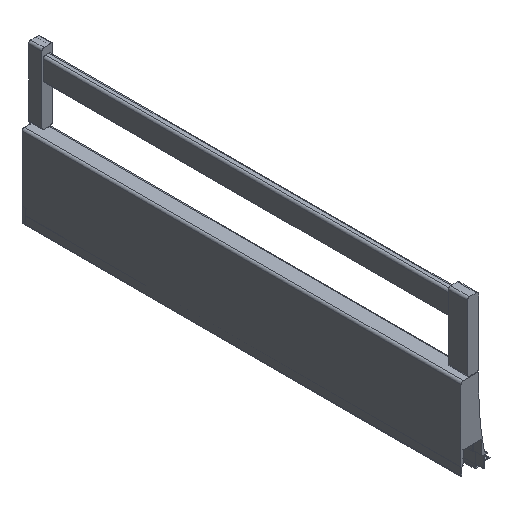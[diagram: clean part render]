
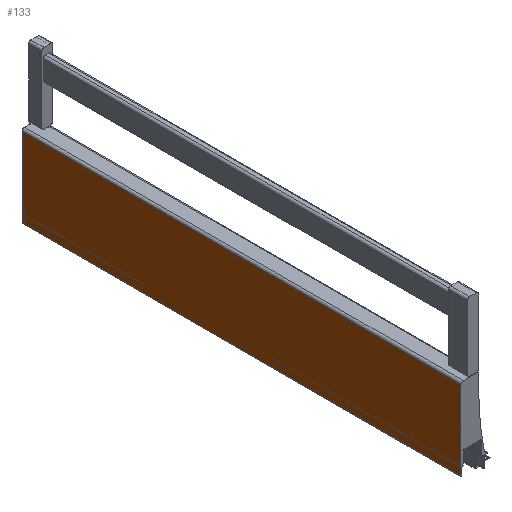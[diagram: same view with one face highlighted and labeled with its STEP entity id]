
A CAD part, isometric view. The second image highlights one B-rep face of the part: STEP entity #133.
In plain terms, the highlighted planar face has unit normal (-1, 0, 0).
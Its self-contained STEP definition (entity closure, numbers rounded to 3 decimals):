
#8 = CARTESIAN_POINT ( 'NONE',  ( -4.1, 590., -28.503 ) ) ;
#16 = PLANE ( 'NONE',  #1173 ) ;
#53 = DIRECTION ( 'NONE',  ( 0., 0., -1. ) ) ;
#54 = DIRECTION ( 'NONE',  ( 1., 0., 0. ) ) ;
#133 = ADVANCED_FACE ( 'NONE', ( #897 ), #16, .F. ) ;
#336 = EDGE_CURVE ( 'NONE', #6606, #6707, #6820, .T. ) ;
#440 = EDGE_CURVE ( 'NONE', #6605, #6581, #5479, .T. ) ;
#713 = EDGE_CURVE ( 'NONE', #6707, #6581, #3304, .T. ) ;
#757 = EDGE_CURVE ( 'NONE', #6606, #6605, #3388, .T. ) ;
#897 = FACE_OUTER_BOUND ( 'NONE', #1480, .T. ) ;
#1173 = AXIS2_PLACEMENT_3D ( 'NONE', #8, #54, #53 ) ;
#1480 = EDGE_LOOP ( 'NONE', ( #2683, #2682, #2681, #2680 ) ) ;
#2680 = ORIENTED_EDGE ( 'NONE', *, *, #440, .T. ) ;
#2681 = ORIENTED_EDGE ( 'NONE', *, *, #757, .T. ) ;
#2682 = ORIENTED_EDGE ( 'NONE', *, *, #336, .F. ) ;
#2683 = ORIENTED_EDGE ( 'NONE', *, *, #713, .F. ) ;
#3304 = LINE ( 'NONE', #5099, #3305 ) ;
#3305 = VECTOR ( 'NONE', #5100, 1000. ) ;
#3388 = LINE ( 'NONE', #5193, #3389 ) ;
#3389 = VECTOR ( 'NONE', #5194, 1000. ) ;
#4247 = CARTESIAN_POINT ( 'NONE',  ( -4.1, 590., 78.498 ) ) ;
#4248 = DIRECTION ( 'NONE',  ( 0., -1., 0. ) ) ;
#4513 = CARTESIAN_POINT ( 'NONE',  ( -4.1, 590., -28.503 ) ) ;
#4514 = DIRECTION ( 'NONE',  ( 0., -1., 0. ) ) ;
#5099 = CARTESIAN_POINT ( 'NONE',  ( -4.1, 0., -28.503 ) ) ;
#5100 = DIRECTION ( 'NONE',  ( 0., 0., -1. ) ) ;
#5193 = CARTESIAN_POINT ( 'NONE',  ( -4.1, 590., 64.411 ) ) ;
#5194 = DIRECTION ( 'NONE',  ( 0., 0., -1. ) ) ;
#5479 = LINE ( 'NONE', #4513, #5483 ) ;
#5483 = VECTOR ( 'NONE', #4514, 1000. ) ;
#5878 = CARTESIAN_POINT ( 'NONE',  ( -4.1, 0., -28.503 ) ) ;
#5900 = CARTESIAN_POINT ( 'NONE',  ( -4.1, 590., -28.503 ) ) ;
#5901 = CARTESIAN_POINT ( 'NONE',  ( -4.1, 590., 78.498 ) ) ;
#5957 = CARTESIAN_POINT ( 'NONE',  ( -4.1, 0., 78.498 ) ) ;
#6581 = VERTEX_POINT ( 'NONE', #5878 ) ;
#6605 = VERTEX_POINT ( 'NONE', #5900 ) ;
#6606 = VERTEX_POINT ( 'NONE', #5901 ) ;
#6707 = VERTEX_POINT ( 'NONE', #5957 ) ;
#6818 = VECTOR ( 'NONE', #4248, 1000. ) ;
#6820 = LINE ( 'NONE', #4247, #6818 ) ;
